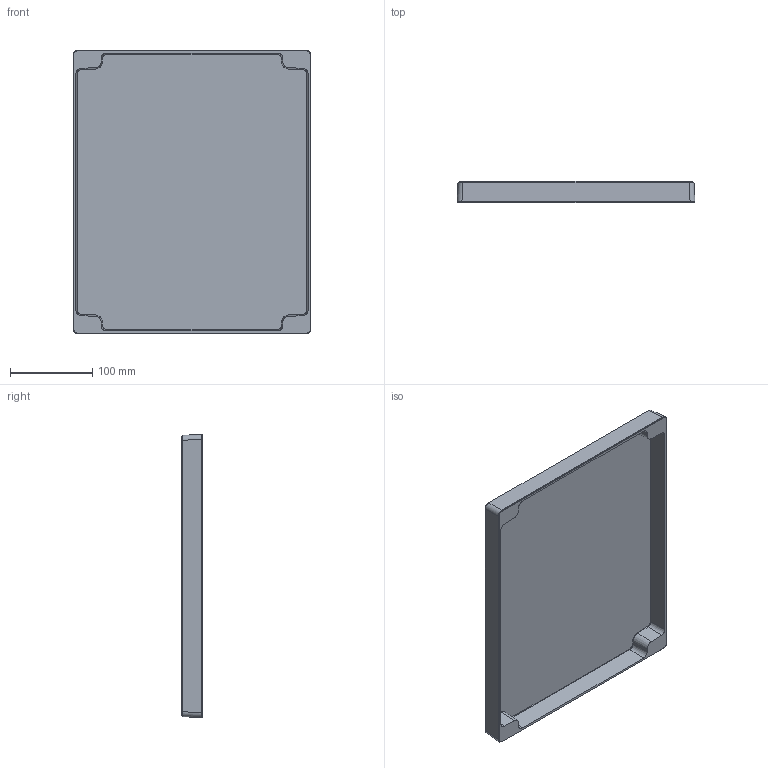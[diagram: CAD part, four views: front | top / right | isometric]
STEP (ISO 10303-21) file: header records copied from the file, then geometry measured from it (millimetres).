
FILE_DESCRIPTION (( 'STEP AP214' ), '1' );
FILE_NAME ('FIBOX TEMPO 3429 Cover.STEP', '2006-11-30T13:12:43', ( 'JuhaniH' ), ( 'Fibox Oy' ), 'SwSTEP 2.0', 'SolidWorks 2006233', '' );
FILE_SCHEMA (( 'AUTOMOTIVE_DESIGN' ));
Length unit declared in the file: millimetre
Products named in the file (1): FIBOX TEMPO 3429 Cover
Bounding box: 288.9 x 26 x 343.9 mm (x, y, z)
Volume: 390728 mm3; surface area: 256429 mm2
Topology: 1 solids, 1 shells, 88 faces, 208 edges, 128 vertices
Faces by surface type: plane 32, cone 20, cylinder 16, torus 12, bspline 8
Entity records: 2911 total; most frequent: CARTESIAN_POINT 885, DIRECTION 418, ORIENTED_EDGE 416, EDGE_CURVE 208, AXIS2_PLACEMENT_3D 157, VERTEX_POINT 128, VECTOR 104, LINE 104
